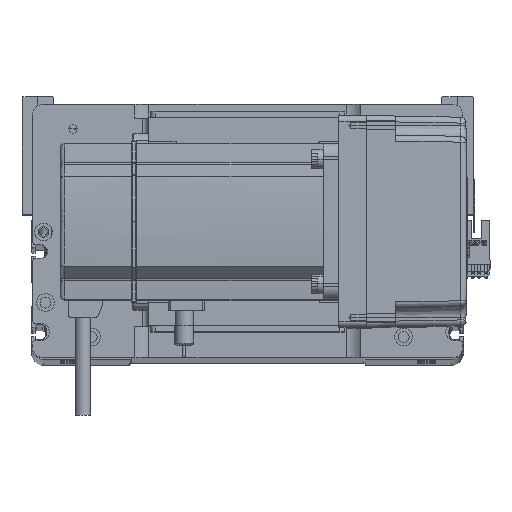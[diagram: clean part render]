
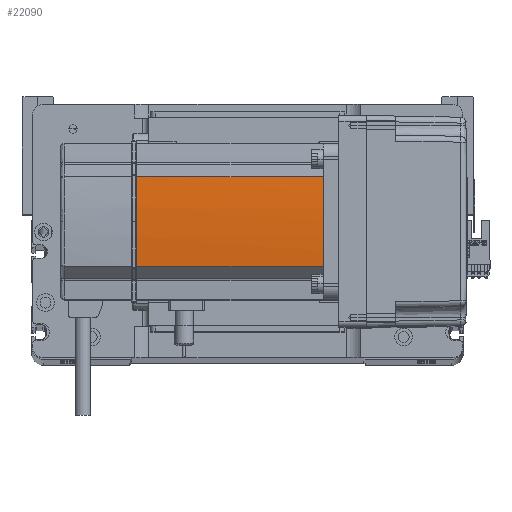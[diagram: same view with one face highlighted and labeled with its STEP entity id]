
A CAD part, top view. The second image highlights one B-rep face of the part: STEP entity #22090.
In plain terms, the highlighted cylindrical face has radius 270 mm (diameter 540 mm), a partial arc.
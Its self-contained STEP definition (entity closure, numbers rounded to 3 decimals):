
#342 = ORIENTED_EDGE ( 'NONE', *, *, #14860, .T. ) ;
#528 = AXIS2_PLACEMENT_3D ( 'NONE', #32040, #19981, #48834 ) ;
#618 = CARTESIAN_POINT ( 'NONE',  ( -39.042, -22.724, 134. ) ) ;
#812 = DIRECTION ( 'NONE',  ( 0., 0., -1. ) ) ;
#915 = VECTOR ( 'NONE', #38854, 1000. ) ;
#1879 = DIRECTION ( 'NONE',  ( 1., 0., 0. ) ) ;
#2237 = DIRECTION ( 'NONE',  ( 1., 0., 0. ) ) ;
#2346 = ORIENTED_EDGE ( 'NONE', *, *, #22418, .F. ) ;
#2660 = VERTEX_POINT ( 'NONE', #11281 ) ;
#2763 = CIRCLE ( 'NONE', #45304, 270. ) ;
#5777 = CARTESIAN_POINT ( 'NONE',  ( -39.042, -22.724, 0. ) ) ;
#6080 = DIRECTION ( 'NONE',  ( 0., 0., 1. ) ) ;
#6081 = CARTESIAN_POINT ( 'NONE',  ( -40., 0., 134. ) ) ;
#9767 = CYLINDRICAL_SURFACE ( 'NONE', #16733, 270. ) ;
#11281 = CARTESIAN_POINT ( 'NONE',  ( -39.042, -22.724, 39. ) ) ;
#14147 = CARTESIAN_POINT ( 'NONE',  ( -39.042, 22.724, 39. ) ) ;
#14860 = EDGE_CURVE ( 'NONE', #22406, #46324, #28831, .T. ) ;
#15488 = EDGE_LOOP ( 'NONE', ( #23945, #45299, #342, #2346, #34263 ) ) ;
#16733 = AXIS2_PLACEMENT_3D ( 'NONE', #26167, #6080, #2237 ) ;
#18503 = CARTESIAN_POINT ( 'NONE',  ( 230., 0., 39. ) ) ;
#19061 = CIRCLE ( 'NONE', #528, 270. ) ;
#19981 = DIRECTION ( 'NONE',  ( 0., 0., -1. ) ) ;
#22090 = ADVANCED_FACE ( 'NONE', ( #32616 ), #9767, .T. ) ;
#22406 = VERTEX_POINT ( 'NONE', #50943 ) ;
#22418 = EDGE_CURVE ( 'NONE', #2660, #46324, #36507, .T. ) ;
#23443 = DIRECTION ( 'NONE',  ( 0., 0., -1. ) ) ;
#23903 = VERTEX_POINT ( 'NONE', #6081 ) ;
#23945 = ORIENTED_EDGE ( 'NONE', *, *, #44073, .T. ) ;
#26167 = CARTESIAN_POINT ( 'NONE',  ( 230., 0., 0. ) ) ;
#28018 = DIRECTION ( 'NONE',  ( 0., 0., -1. ) ) ;
#28831 = LINE ( 'NONE', #44647, #38049 ) ;
#31621 = LINE ( 'NONE', #5777, #915 ) ;
#32040 = CARTESIAN_POINT ( 'NONE',  ( 230., 0., 134. ) ) ;
#32616 = FACE_OUTER_BOUND ( 'NONE', #15488, .T. ) ;
#33145 = VERTEX_POINT ( 'NONE', #618 ) ;
#34263 = ORIENTED_EDGE ( 'NONE', *, *, #45028, .T. ) ;
#36507 = CIRCLE ( 'NONE', #46474, 270. ) ;
#38049 = VECTOR ( 'NONE', #28018, 1000. ) ;
#38854 = DIRECTION ( 'NONE',  ( 0., 0., 1. ) ) ;
#43213 = EDGE_CURVE ( 'NONE', #23903, #22406, #2763, .T. ) ;
#44073 = EDGE_CURVE ( 'NONE', #33145, #23903, #19061, .T. ) ;
#44647 = CARTESIAN_POINT ( 'NONE',  ( -39.042, 22.724, 0. ) ) ;
#45028 = EDGE_CURVE ( 'NONE', #2660, #33145, #31621, .T. ) ;
#45299 = ORIENTED_EDGE ( 'NONE', *, *, #43213, .T. ) ;
#45304 = AXIS2_PLACEMENT_3D ( 'NONE', #46654, #812, #51435 ) ;
#46324 = VERTEX_POINT ( 'NONE', #14147 ) ;
#46474 = AXIS2_PLACEMENT_3D ( 'NONE', #18503, #23443, #1879 ) ;
#46654 = CARTESIAN_POINT ( 'NONE',  ( 230., 0., 134. ) ) ;
#48834 = DIRECTION ( 'NONE',  ( 1., 0., 0. ) ) ;
#50943 = CARTESIAN_POINT ( 'NONE',  ( -39.042, 22.724, 134. ) ) ;
#51435 = DIRECTION ( 'NONE',  ( 1., 0., 0. ) ) ;
